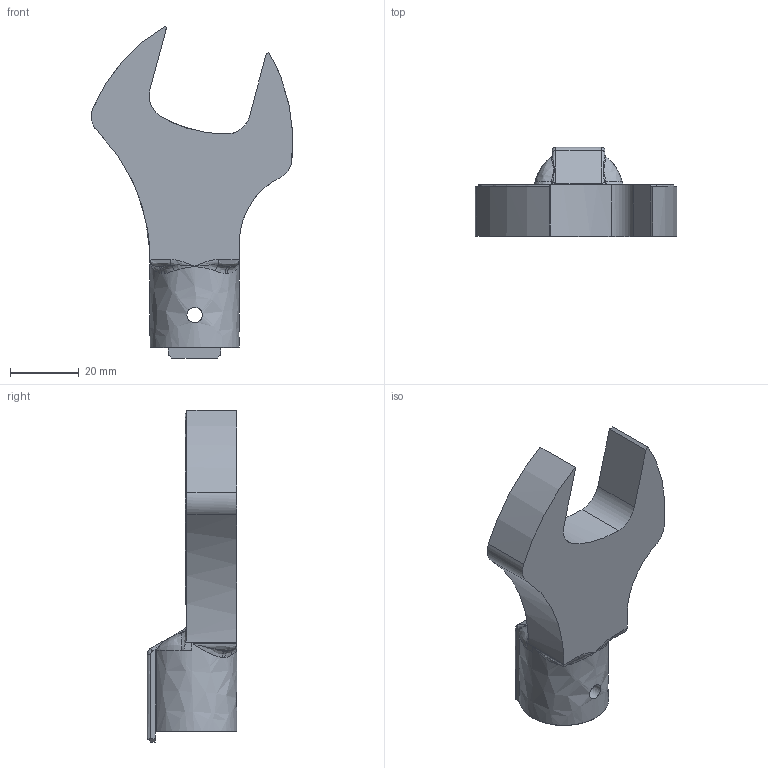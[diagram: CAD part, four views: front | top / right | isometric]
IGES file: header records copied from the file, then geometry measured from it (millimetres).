
Global section: file name: SH19DX30; native system: Autodesk Inventor 2016; preprocessor: unknown; author: Q600; date: 20151029.175635; units: millimetre
Bounding box: 58.63 x 26 x 96.59 mm (x, y, z)
Volume: 37604.6 mm3; surface area: 11645 mm2
Topology: 1 solids, 1 shells, 98 faces, 268 edges, 164 vertices
Faces by surface type: bspline 98
